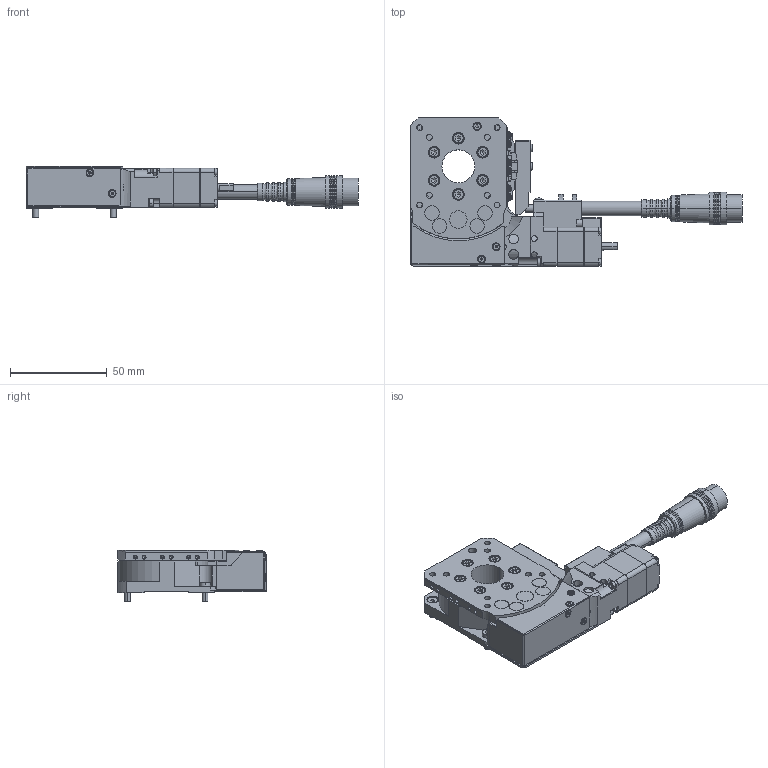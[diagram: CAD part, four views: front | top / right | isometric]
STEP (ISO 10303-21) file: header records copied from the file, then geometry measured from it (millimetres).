
FILE_DESCRIPTION( (''), '2;1');
FILE_NAME ('RA05A-T01.stp','2022-03-30T18:37:42',(''),(''),'spGate 17.5.5','','');
FILE_SCHEMA (('AUTOMOTIVE_DESIGN'));
Length unit declared in the file: millimetre
Products named in the file (6): Assembly; RA05A-T01-prt0; RA05A-T01-prt1; RA05A-T01-prt2; RA05A-T01-prt3; RA05A-T01-prt4
Assembly tree (5 placements, depth 2):
  Assembly
    RA05A-T01-prt0
    RA05A-T01-prt1
    RA05A-T01-prt2
    RA05A-T01-prt3
    RA05A-T01-prt4
Bounding box: 171.5 x 76.5 x 26.5 mm (x, y, z)
Volume: 100398.3 mm3; surface area: 43215.2 mm2
Topology: 5 solids, 6 shells, 1439 faces, 3647 edges, 2272 vertices
Faces by surface type: plane 805, cylinder 417, bspline 203, sphere 14
Entity records: 73409 total; most frequent: CARTESIAN_POINT 10675, ORIENTED_EDGE 7190, DIRECTION 6799, COLOUR_RGB 5039, PRESENTATION_STYLE_ASSIGNMENT 5039, STYLED_ITEM 5039, EDGE_CURVE 3595, DRAUGHTING_PRE_DEFINED_CURVE_FONT 3595
